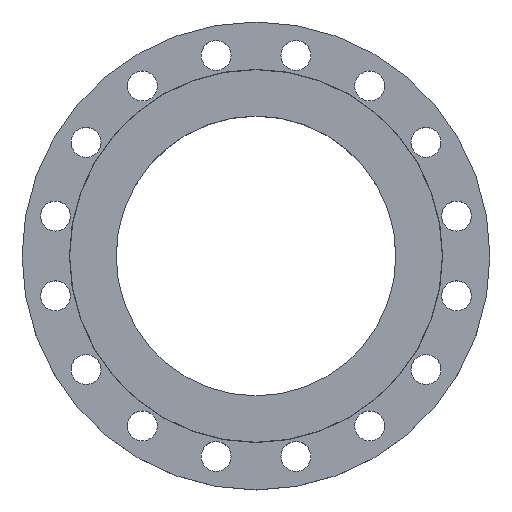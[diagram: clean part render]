
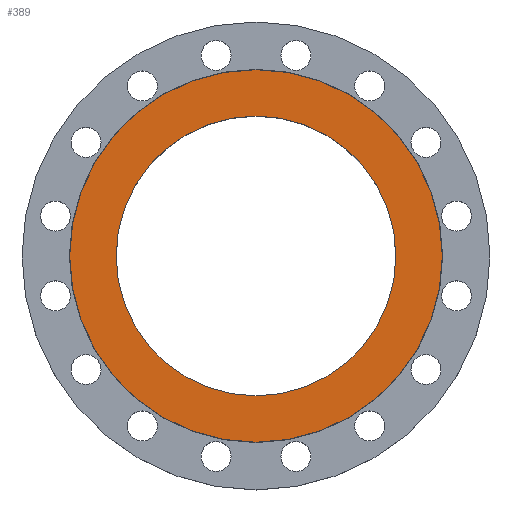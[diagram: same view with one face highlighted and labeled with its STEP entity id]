
A CAD part, top view. The second image highlights one B-rep face of the part: STEP entity #389.
In plain terms, the highlighted planar face has unit normal (0, 0, 1).
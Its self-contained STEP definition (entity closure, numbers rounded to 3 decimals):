
#151 = CARTESIAN_POINT ( 'NONE',  ( 153.95, 0., 0. ) ) ;
#168 = EDGE_CURVE ( 'NONE', #1570, #857, #347, .T. ) ;
#222 = CARTESIAN_POINT ( 'NONE',  ( -205., 0., 0. ) ) ;
#347 = CIRCLE ( 'NONE', #359, 153.95 ) ;
#359 = AXIS2_PLACEMENT_3D ( 'NONE', #457, #456, #455 ) ;
#370 = DIRECTION ( 'NONE',  ( 1., 0., 0. ) ) ;
#374 = DIRECTION ( 'NONE',  ( 0., 0., 1. ) ) ;
#375 = CARTESIAN_POINT ( 'NONE',  ( 0., 0., 0. ) ) ;
#378 = PLANE ( 'NONE',  #665 ) ;
#379 = FACE_OUTER_BOUND ( 'NONE', #1437, .T. ) ;
#381 = FACE_BOUND ( 'NONE', #1419, .T. ) ;
#389 = ADVANCED_FACE ( 'NONE', ( #381, #379 ), #378, .T. ) ;
#455 = DIRECTION ( 'NONE',  ( -1., 0., 0. ) ) ;
#456 = DIRECTION ( 'NONE',  ( 0., 0., -1. ) ) ;
#457 = CARTESIAN_POINT ( 'NONE',  ( 0., 0., 0. ) ) ;
#665 = AXIS2_PLACEMENT_3D ( 'NONE', #375, #374, #370 ) ;
#666 = VERTEX_POINT ( 'NONE', #222 ) ;
#769 = ORIENTED_EDGE ( 'NONE', *, *, #1312, .F. ) ;
#804 = ORIENTED_EDGE ( 'NONE', *, *, #1247, .F. ) ;
#805 = ORIENTED_EDGE ( 'NONE', *, *, #168, .T. ) ;
#857 = VERTEX_POINT ( 'NONE', #151 ) ;
#863 = CARTESIAN_POINT ( 'NONE',  ( -153.95, 0., 0. ) ) ;
#947 = CIRCLE ( 'NONE', #948, 205. ) ;
#948 = AXIS2_PLACEMENT_3D ( 'NONE', #1566, #1563, #1561 ) ;
#1001 = CIRCLE ( 'NONE', #1030, 205. ) ;
#1030 = AXIS2_PLACEMENT_3D ( 'NONE', #1499, #1498, #1494 ) ;
#1096 = CIRCLE ( 'NONE', #1102, 153.95 ) ;
#1102 = AXIS2_PLACEMENT_3D ( 'NONE', #1412, #1411, #1408 ) ;
#1247 = EDGE_CURVE ( 'NONE', #1416, #666, #947, .T. ) ;
#1288 = CARTESIAN_POINT ( 'NONE',  ( 205., 0., 0. ) ) ;
#1312 = EDGE_CURVE ( 'NONE', #666, #1416, #1001, .T. ) ;
#1341 = EDGE_CURVE ( 'NONE', #857, #1570, #1096, .T. ) ;
#1408 = DIRECTION ( 'NONE',  ( -1., 0., 0. ) ) ;
#1411 = DIRECTION ( 'NONE',  ( 0., 0., -1. ) ) ;
#1412 = CARTESIAN_POINT ( 'NONE',  ( 0., 0., 0. ) ) ;
#1416 = VERTEX_POINT ( 'NONE', #1288 ) ;
#1419 = EDGE_LOOP ( 'NONE', ( #805, #1458 ) ) ;
#1437 = EDGE_LOOP ( 'NONE', ( #769, #804 ) ) ;
#1458 = ORIENTED_EDGE ( 'NONE', *, *, #1341, .T. ) ;
#1494 = DIRECTION ( 'NONE',  ( -1., 0., 0. ) ) ;
#1498 = DIRECTION ( 'NONE',  ( 0., 0., -1. ) ) ;
#1499 = CARTESIAN_POINT ( 'NONE',  ( 0., 0., 0. ) ) ;
#1561 = DIRECTION ( 'NONE',  ( -1., 0., 0. ) ) ;
#1563 = DIRECTION ( 'NONE',  ( 0., 0., -1. ) ) ;
#1566 = CARTESIAN_POINT ( 'NONE',  ( 0., 0., 0. ) ) ;
#1570 = VERTEX_POINT ( 'NONE', #863 ) ;
